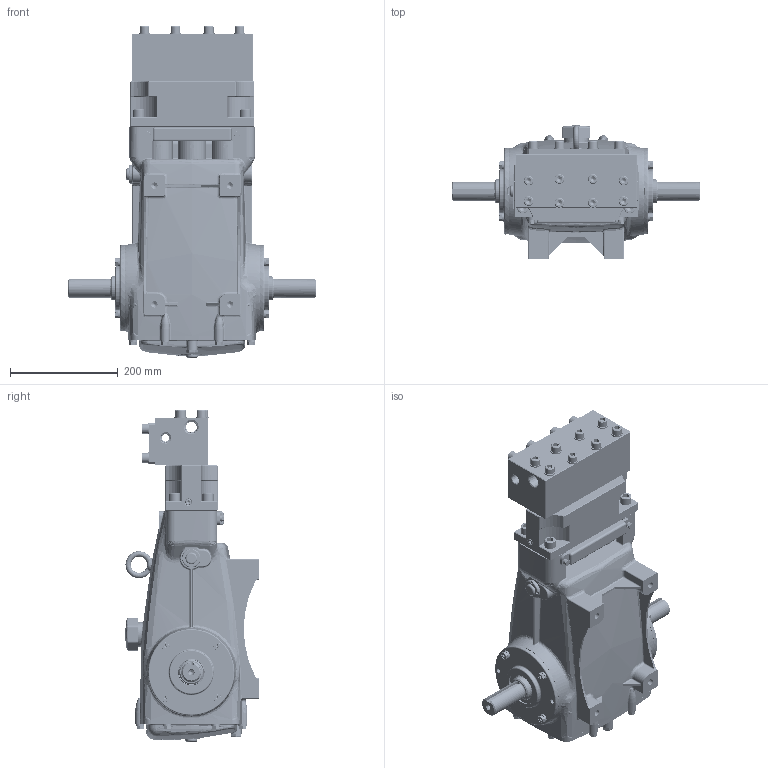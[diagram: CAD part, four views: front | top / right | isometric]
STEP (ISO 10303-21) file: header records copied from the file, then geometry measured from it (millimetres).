
FILE_DESCRIPTION (( 'STEP AP214' ), '1' );
FILE_NAME ('3550.STEP', '2017-09-22T13:38:22', ( '' ), ( '' ), 'SwSTEP 2.0', 'SolidWorks 2017', '' );
FILE_SCHEMA (( 'AUTOMOTIVE_DESIGN' ));
Length unit declared in the file: millimetre
Products named in the file (1): 3550
Bounding box: 460 x 247.5 x 614.3 mm (x, y, z)
Volume: 8757126 mm3; surface area: 1918217.3 mm2
Topology: 89 solids, 91 shells, 6297 faces, 15348 edges, 9153 vertices
Faces by surface type: plane 1926, cylinder 1708, bspline 1185, cone 746, torus 521, sphere 211
Entity records: 313861 total; most frequent: CARTESIAN_POINT 105027, ORIENTED_EDGE 29960, DIRECTION 27794, EDGE_CURVE 14980, AXIS2_PLACEMENT_3D 11255, VERTEX_POINT 9113, EDGE_LOOP 6863, UNCERTAINTY_MEASURE_WITH_UNIT 6388
